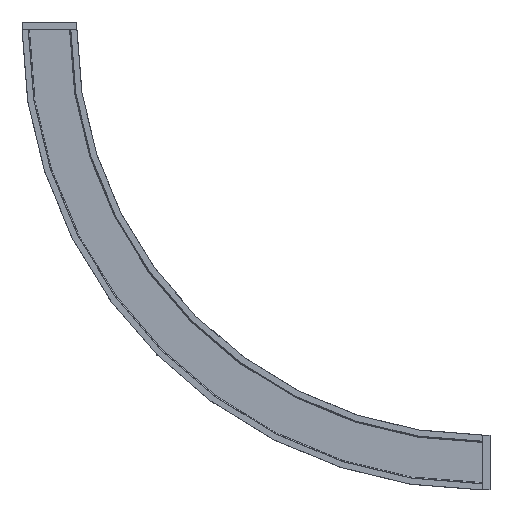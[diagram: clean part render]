
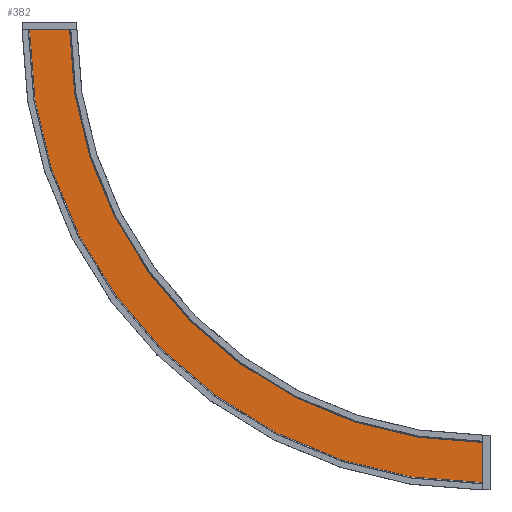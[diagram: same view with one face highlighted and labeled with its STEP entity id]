
A CAD part, front view. The second image highlights one B-rep face of the part: STEP entity #382.
In plain terms, the highlighted planar face has unit normal (0, -1, 0).
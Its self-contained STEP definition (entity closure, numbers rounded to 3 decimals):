
#20 = EDGE_CURVE ( 'NONE', #345, #2158, #408, .T. ) ;
#121 = LINE ( 'NONE', #1375, #2023 ) ;
#182 = CARTESIAN_POINT ( 'NONE',  ( 725., 4.995, 0. ) ) ;
#200 = ORIENTED_EDGE ( 'NONE', *, *, #1083, .F. ) ;
#209 = DIRECTION ( 'NONE',  ( -1., 0., 0. ) ) ;
#224 = DIRECTION ( 'NONE',  ( 0., -1., 0. ) ) ;
#345 = VERTEX_POINT ( 'NONE', #1864 ) ;
#382 = ADVANCED_FACE ( 'NONE', ( #1387 ), #947, .F. ) ;
#408 = LINE ( 'NONE', #2167, #1669 ) ;
#425 = EDGE_LOOP ( 'NONE', ( #2266, #200, #896, #925 ) ) ;
#504 = VERTEX_POINT ( 'NONE', #1924 ) ;
#521 = AXIS2_PLACEMENT_3D ( 'NONE', #182, #224, #209 ) ;
#525 = CARTESIAN_POINT ( 'NONE',  ( 725., 4.995, 0. ) ) ;
#577 = DIRECTION ( 'NONE',  ( 0., 0., 1. ) ) ;
#592 = DIRECTION ( 'NONE',  ( 0., 1., 0. ) ) ;
#627 = CARTESIAN_POINT ( 'NONE',  ( -33.601, 4.995, 0. ) ) ;
#714 = AXIS2_PLACEMENT_3D ( 'NONE', #627, #592, #577 ) ;
#794 = EDGE_CURVE ( 'NONE', #1871, #345, #1767, .T. ) ;
#851 = CARTESIAN_POINT ( 'NONE',  ( 725., 4.995, -691.401 ) ) ;
#896 = ORIENTED_EDGE ( 'NONE', *, *, #794, .T. ) ;
#925 = ORIENTED_EDGE ( 'NONE', *, *, #20, .T. ) ;
#947 = PLANE ( 'NONE',  #714 ) ;
#1083 = EDGE_CURVE ( 'NONE', #1871, #504, #121, .T. ) ;
#1375 = CARTESIAN_POINT ( 'NONE',  ( -33.601, 4.995, 0. ) ) ;
#1387 = FACE_OUTER_BOUND ( 'NONE', #425, .T. ) ;
#1540 = DIRECTION ( 'NONE',  ( 1., 0., 0. ) ) ;
#1573 = AXIS2_PLACEMENT_3D ( 'NONE', #525, #1998, #2177 ) ;
#1669 = VECTOR ( 'NONE', #2318, 1000. ) ;
#1767 = CIRCLE ( 'NONE', #1573, 758.601 ) ;
#1864 = CARTESIAN_POINT ( 'NONE',  ( 725., 4.995, -758.601 ) ) ;
#1871 = VERTEX_POINT ( 'NONE', #1988 ) ;
#1924 = CARTESIAN_POINT ( 'NONE',  ( 33.599, 4.995, 0. ) ) ;
#1988 = CARTESIAN_POINT ( 'NONE',  ( -33.601, 4.995, 0. ) ) ;
#1998 = DIRECTION ( 'NONE',  ( 0., -1., 0. ) ) ;
#2023 = VECTOR ( 'NONE', #1540, 1000. ) ;
#2081 = EDGE_CURVE ( 'NONE', #504, #2158, #2157, .T. ) ;
#2157 = CIRCLE ( 'NONE', #521, 691.401 ) ;
#2158 = VERTEX_POINT ( 'NONE', #851 ) ;
#2167 = CARTESIAN_POINT ( 'NONE',  ( 725., 4.995, -758.601 ) ) ;
#2177 = DIRECTION ( 'NONE',  ( -1., 0., 0. ) ) ;
#2266 = ORIENTED_EDGE ( 'NONE', *, *, #2081, .F. ) ;
#2318 = DIRECTION ( 'NONE',  ( 0., 0., 1. ) ) ;
